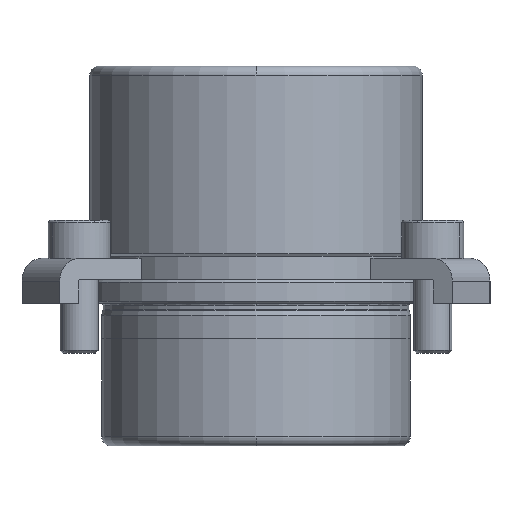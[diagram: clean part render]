
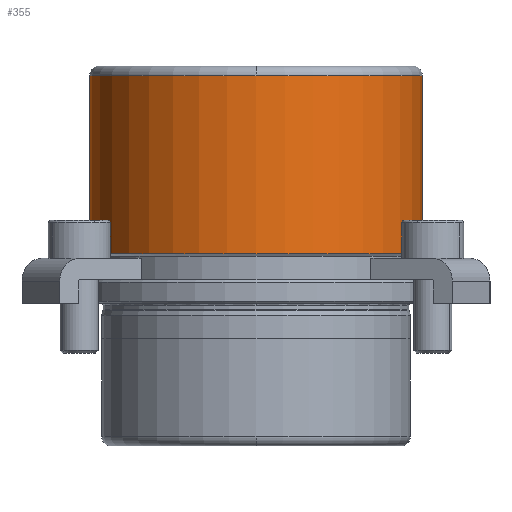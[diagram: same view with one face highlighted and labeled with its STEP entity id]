
A CAD part, front view. The second image highlights one B-rep face of the part: STEP entity #355.
In plain terms, the highlighted cylindrical face has radius 35 mm (diameter 70 mm), a partial arc.
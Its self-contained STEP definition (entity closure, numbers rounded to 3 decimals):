
#269=CARTESIAN_POINT('',(0.0,-35.,48.));
#270=VERTEX_POINT('',#269);
#296=CARTESIAN_POINT('',(-35.0,0.,48.));
#297=VERTEX_POINT('',#296);
#305=CARTESIAN_POINT('',(0.0,0.,48.));
#306=DIRECTION('',(0.0,0.0,1.0));
#307=DIRECTION('',(1.0,0.0,0.0));
#308=AXIS2_PLACEMENT_3D('',#305,#306,#307);
#309=CIRCLE('',#308,35.0);
#310=EDGE_CURVE('',#297,#270,#309,.T.);
#315=CARTESIAN_POINT('',(0.0,0.,29.25));
#316=DIRECTION('',(0.0,0.,1.0));
#317=DIRECTION('',(1.0,0.0,0.0));
#318=AXIS2_PLACEMENT_3D('',#315,#316,#317);
#319=CYLINDRICAL_SURFACE('',#318,35.0);
#320=CARTESIAN_POINT('',(35.0,0.,48.));
#321=VERTEX_POINT('',#320);
#322=CARTESIAN_POINT('',(35.0,0.,10.5));
#323=VERTEX_POINT('',#322);
#324=CARTESIAN_POINT('',(35.0,0.,48.));
#325=DIRECTION('',(0.0,0.0,-1.0));
#326=VECTOR('',#325,37.5);
#327=LINE('',#324,#326);
#328=EDGE_CURVE('',#321,#323,#327,.T.);
#329=ORIENTED_EDGE('',*,*,#328,.F.);
#330=CARTESIAN_POINT('',(0.0,0.,48.));
#331=DIRECTION('',(0.0,0.0,1.0));
#332=DIRECTION('',(1.0,0.0,0.0));
#333=AXIS2_PLACEMENT_3D('',#330,#331,#332);
#334=CIRCLE('',#333,35.0);
#335=EDGE_CURVE('',#270,#321,#334,.T.);
#336=ORIENTED_EDGE('',*,*,#335,.F.);
#337=ORIENTED_EDGE('',*,*,#310,.F.);
#338=CARTESIAN_POINT('',(-35.0,0.,10.5));
#339=VERTEX_POINT('',#338);
#340=CARTESIAN_POINT('',(-35.0,0.,48.));
#341=DIRECTION('',(0.0,0.0,-1.0));
#342=VECTOR('',#341,37.5);
#343=LINE('',#340,#342);
#344=EDGE_CURVE('',#297,#339,#343,.T.);
#345=ORIENTED_EDGE('',*,*,#344,.T.);
#346=CARTESIAN_POINT('',(0.0,0.,10.5));
#347=DIRECTION('',(0.0,0.0,1.0));
#348=DIRECTION('',(1.0,0.0,0.0));
#349=AXIS2_PLACEMENT_3D('',#346,#347,#348);
#350=CIRCLE('',#349,35.0);
#351=EDGE_CURVE('',#339,#323,#350,.T.);
#352=ORIENTED_EDGE('',*,*,#351,.T.);
#353=EDGE_LOOP('',(#329,#336,#337,#345,#352));
#354=FACE_OUTER_BOUND('',#353,.T.);
#355=ADVANCED_FACE('',(#354),#319,.T.);
